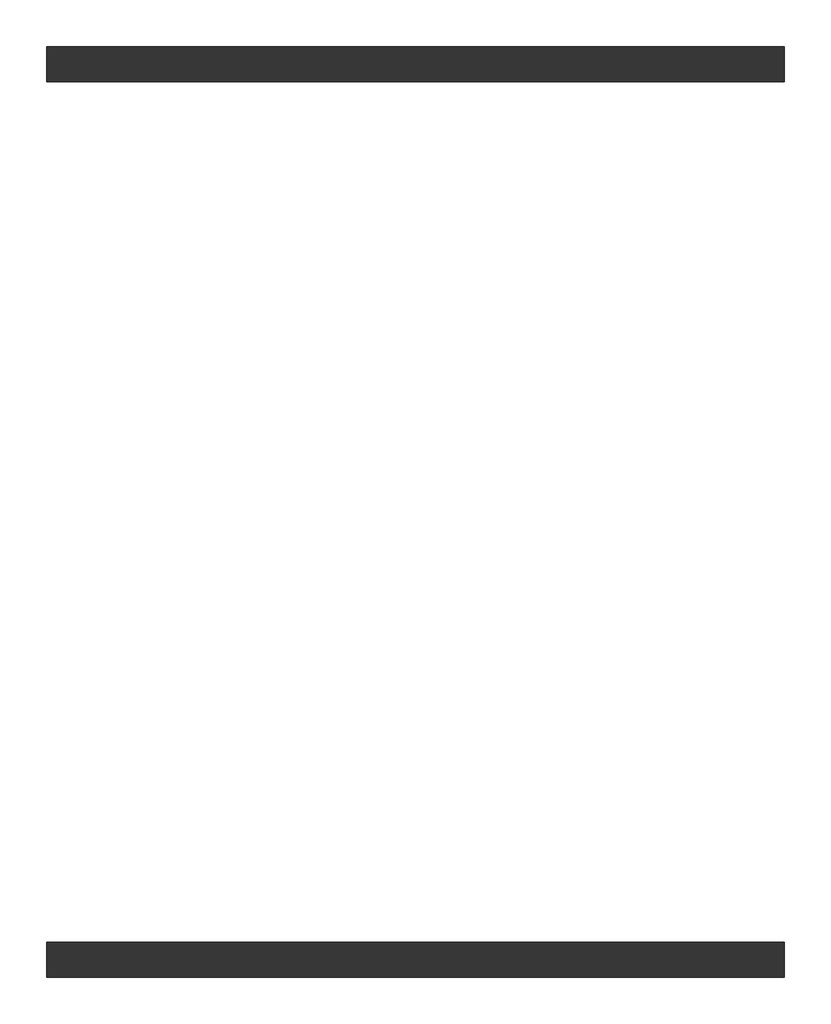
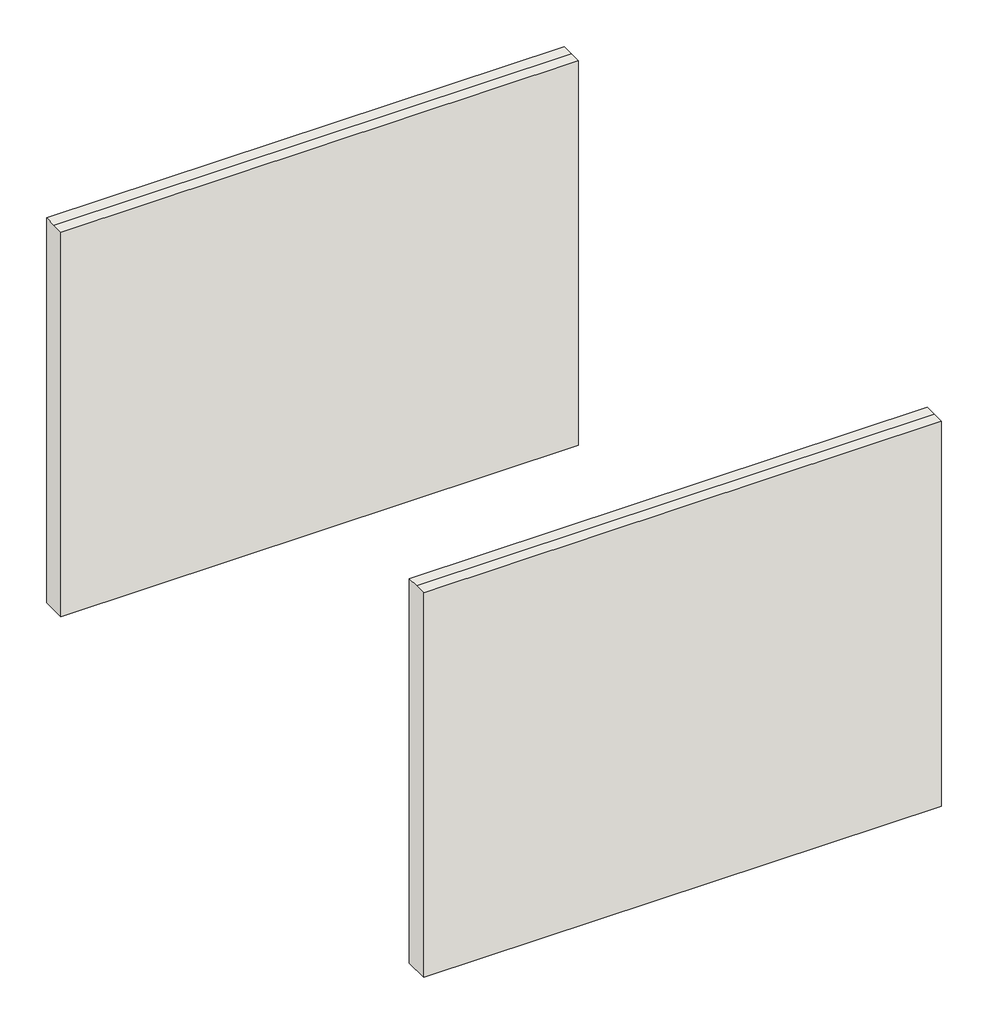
# One storey: 2 walls.
"""IFC4 building model written with IfcOpenShell, lengths in millimetres."""

from ifc_helpers import new_model, si_unit, frame, origin, place, context, project, spatial, polyline, outline, extrude, element, save

model = new_model("IFC4")

# Units and contexts
model_context = context("Model", 3, world=origin())
ifc_project = project(units=[si_unit("LENGTHUNIT", "METRE", prefix="MILLI")], contexts=[model_context])

# Site, building, storey
site = spatial("IfcSite", under=ifc_project)
building = spatial("IfcBuilding", under=site)
storey = spatial("IfcBuildingStorey", under=building, Name="-1_kelder_(AVL-BK)", Elevation=-3300.0)

# Walls
placement = place(None, origin())
element("IfcWall", 1, ObjectType="RBS_21_WA_wand_buiten_d=200", at=placement, inside=storey, context=model_context, shape_type="SweptSolid", body=[
    extrude(outline(polyline([(7400.0, -3600.0), (7400.0, -300.0), (7500.0, -300.0), (7600.0, -300.0), (7600.0, -3600.0), (7400.0, -3600.0)])), frame((2900.0, 0.0, 0.0), z_axis=(1.0, 0.0, 0.0), x_axis=(0.0, 1.0, 0.0)), (0.0, 0.0, 1.0), 4200.0),
])
element("IfcWall", 2, ObjectType="RBS_21_WA_wand_buiten_d=200", at=placement, inside=storey, context=model_context, shape_type="SweptSolid", body=[
    extrude(outline(polyline([(2500.0, -300.0), (2500.0, -3600.0), (2300.0, -3600.0), (2300.0, -300.0), (2400.0, -300.0), (2500.0, -300.0)])), frame((2900.0, 0.0, 0.0), z_axis=(1.0, 0.0, 0.0), x_axis=(0.0, 1.0, 0.0)), (0.0, 0.0, 1.0), 4200.0),
])

save(model, "model.ifc")
